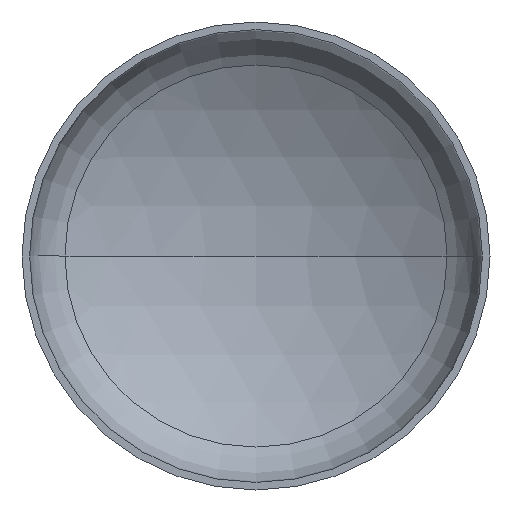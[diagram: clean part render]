
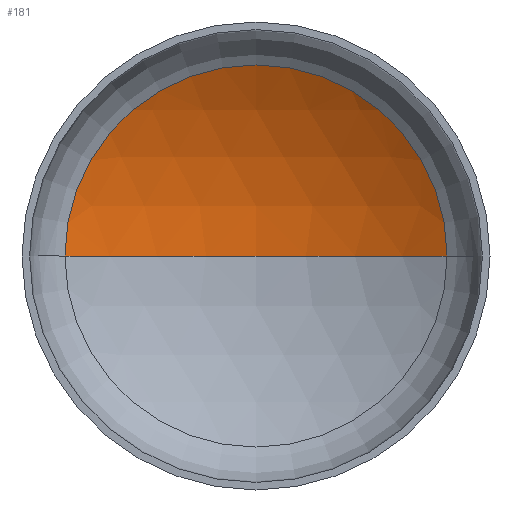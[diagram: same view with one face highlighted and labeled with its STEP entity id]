
A CAD part, front view. The second image highlights one B-rep face of the part: STEP entity #181.
In plain terms, the highlighted spherical face has radius 1920 mm.
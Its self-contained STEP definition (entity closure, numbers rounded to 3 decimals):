
#2 = CIRCLE ( 'NONE', #229, 979.819 ) ;
#7 = ORIENTED_EDGE ( 'NONE', *, *, #402, .T. ) ;
#9 = VERTEX_POINT ( 'NONE', #274 ) ;
#14 = EDGE_LOOP ( 'NONE', ( #35, #38, #7 ) ) ;
#15 = AXIS2_PLACEMENT_3D ( 'NONE', #219, #390, #156 ) ;
#35 = ORIENTED_EDGE ( 'NONE', *, *, #385, .F. ) ;
#37 = AXIS2_PLACEMENT_3D ( 'NONE', #128, #321, #42 ) ;
#38 = ORIENTED_EDGE ( 'NONE', *, *, #401, .T. ) ;
#42 = DIRECTION ( 'NONE',  ( 1., 0., 0. ) ) ;
#51 = VERTEX_POINT ( 'NONE', #239 ) ;
#82 = CARTESIAN_POINT ( 'NONE',  ( 0., 438.194, 0. ) ) ;
#85 = VERTEX_POINT ( 'NONE', #379 ) ;
#128 = CARTESIAN_POINT ( 'NONE',  ( 0., -1212.974, 0. ) ) ;
#130 = AXIS2_PLACEMENT_3D ( 'NONE', #289, #173, #205 ) ;
#151 = FACE_OUTER_BOUND ( 'NONE', #14, .T. ) ;
#156 = DIRECTION ( 'NONE',  ( -1., 0., 0. ) ) ;
#172 = CIRCLE ( 'NONE', #37, 1920. ) ;
#173 = DIRECTION ( 'NONE',  ( 0., 0., -1. ) ) ;
#181 = ADVANCED_FACE ( 'NONE', ( #151 ), #407, .F. ) ;
#205 = DIRECTION ( 'NONE',  ( -1., 0., 0. ) ) ;
#216 = DIRECTION ( 'NONE',  ( 1., 0., 0. ) ) ;
#219 = CARTESIAN_POINT ( 'NONE',  ( 0., -1212.974, 0. ) ) ;
#229 = AXIS2_PLACEMENT_3D ( 'NONE', #82, #362, #216 ) ;
#239 = CARTESIAN_POINT ( 'NONE',  ( 979.819, 438.194, 0. ) ) ;
#274 = CARTESIAN_POINT ( 'NONE',  ( 0., 707.026, 0. ) ) ;
#289 = CARTESIAN_POINT ( 'NONE',  ( 0., -1212.974, 0. ) ) ;
#321 = DIRECTION ( 'NONE',  ( 0., 0., 1. ) ) ;
#362 = DIRECTION ( 'NONE',  ( 0., -1., 0. ) ) ;
#363 = CIRCLE ( 'NONE', #15, 1920. ) ;
#379 = CARTESIAN_POINT ( 'NONE',  ( -979.819, 438.194, 0. ) ) ;
#385 = EDGE_CURVE ( 'NONE', #9, #85, #172, .T. ) ;
#390 = DIRECTION ( 'NONE',  ( 0., 0., -1. ) ) ;
#401 = EDGE_CURVE ( 'NONE', #9, #51, #363, .T. ) ;
#402 = EDGE_CURVE ( 'NONE', #51, #85, #2, .T. ) ;
#407 = SPHERICAL_SURFACE ( 'NONE', #130, 1920. ) ;
